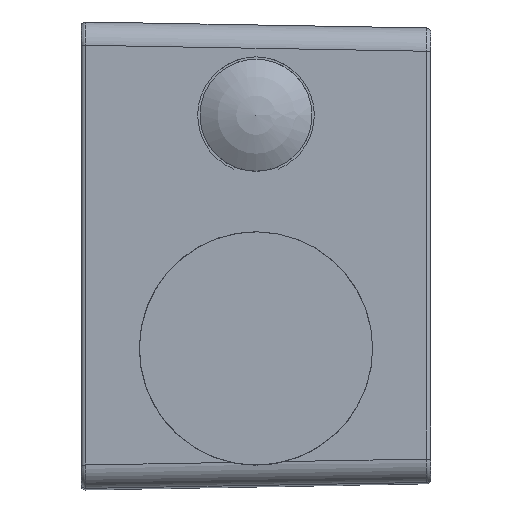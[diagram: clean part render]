
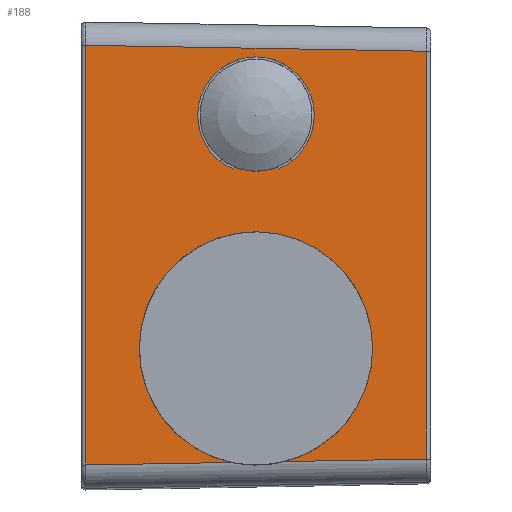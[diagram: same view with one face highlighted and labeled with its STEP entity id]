
A CAD part, top view. The second image highlights one B-rep face of the part: STEP entity #188.
In plain terms, the highlighted planar face has unit normal (0, 0, 1).
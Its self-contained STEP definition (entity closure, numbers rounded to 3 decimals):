
#188 = ADVANCED_FACE( '', ( #486, #487 ), #488, .T. );
#486 = FACE_OUTER_BOUND( '', #1591, .T. );
#487 = FACE_BOUND( '', #1592, .T. );
#488 = PLANE( '', #1593 );
#1591 = EDGE_LOOP( '', ( #2720, #2721, #2722, #2723, #2724, #2725 ) );
#1592 = EDGE_LOOP( '', ( #2726, #2727, #2728, #2729 ) );
#1593 = AXIS2_PLACEMENT_3D( '', #2730, #2731, #2732 );
#2720 = ORIENTED_EDGE( '', *, *, #3385, .T. );
#2721 = ORIENTED_EDGE( '', *, *, #3389, .T. );
#2722 = ORIENTED_EDGE( '', *, *, #3344, .T. );
#2723 = ORIENTED_EDGE( '', *, *, #3397, .T. );
#2724 = ORIENTED_EDGE( '', *, *, #3348, .T. );
#2725 = ORIENTED_EDGE( '', *, *, #3398, .T. );
#2726 = ORIENTED_EDGE( '', *, *, #3399, .T. );
#2727 = ORIENTED_EDGE( '', *, *, #3400, .T. );
#2728 = ORIENTED_EDGE( '', *, *, #3401, .T. );
#2729 = ORIENTED_EDGE( '', *, *, #3402, .T. );
#2730 = CARTESIAN_POINT( '', ( -15., 10., 9.5 ) );
#2731 = DIRECTION( '', ( 0., 0., 1. ) );
#2732 = DIRECTION( '', ( -1., 0., 0. ) );
#3344 = EDGE_CURVE( '', #3951, #3952, #3953, .T. );
#3348 = EDGE_CURVE( '', #3960, #3958, #3961, .T. );
#3385 = EDGE_CURVE( '', #4016, #4014, #4017, .F. );
#3389 = EDGE_CURVE( '', #4014, #3951, #4021, .T. );
#3397 = EDGE_CURVE( '', #3952, #3960, #4031, .T. );
#3398 = EDGE_CURVE( '', #3958, #4016, #4032, .F. );
#3399 = EDGE_CURVE( '', #4033, #4034, #4035, .T. );
#3400 = EDGE_CURVE( '', #4034, #4036, #4037, .F. );
#3401 = EDGE_CURVE( '', #4036, #4038, #4039, .T. );
#3402 = EDGE_CURVE( '', #4038, #4033, #4040, .T. );
#3951 = VERTEX_POINT( '', #4805 );
#3952 = VERTEX_POINT( '', #4806 );
#3953 = LINE( '', #4807, #4808 );
#3958 = VERTEX_POINT( '', #4814 );
#3960 = VERTEX_POINT( '', #4816 );
#3961 = LINE( '', #4817, #4818 );
#4014 = VERTEX_POINT( '', #4891 );
#4016 = VERTEX_POINT( '', #4893 );
#4017 = LINE( '', #4894, #4895 );
#4021 = LINE( '', #4899, #4900 );
#4031 = CIRCLE( '', #4913, 5. );
#4032 = LINE( '', #4914, #4915 );
#4033 = VERTEX_POINT( '', #4916 );
#4034 = VERTEX_POINT( '', #4917 );
#4035 = LINE( '', #4918, #4919 );
#4036 = VERTEX_POINT( '', #4920 );
#4037 = CIRCLE( '', #4921, 2.4 );
#4038 = VERTEX_POINT( '', #4922 );
#4039 = LINE( '', #4923, #4924 );
#4040 = CIRCLE( '', #4925, 2.5 );
#4805 = CARTESIAN_POINT( '', ( -14.8, -8.996, 9.5 ) );
#4806 = CARTESIAN_POINT( '', ( -8.555, -8.887, 9.5 ) );
#4807 = CARTESIAN_POINT( '', ( -14.668, -8.994, 9.5 ) );
#4808 = VECTOR( '', #5495, 1000. );
#4814 = CARTESIAN_POINT( '', ( -0.2, -8.742, 9.5 ) );
#4816 = CARTESIAN_POINT( '', ( -6.275, -8.848, 9.5 ) );
#4817 = CARTESIAN_POINT( '', ( -14.668, -8.994, 9.5 ) );
#4818 = VECTOR( '', #5503, 1000. );
#4891 = CARTESIAN_POINT( '', ( -14.8, 8.996, 9.5 ) );
#4893 = CARTESIAN_POINT( '', ( -0.2, 8.742, 9.5 ) );
#4894 = CARTESIAN_POINT( '', ( -15.017, 9., 9.5 ) );
#4895 = VECTOR( '', #5583, 1000. );
#4899 = CARTESIAN_POINT( '', ( -14.8, 10., 9.5 ) );
#4900 = VECTOR( '', #5593, 1000. );
#4913 = AXIS2_PLACEMENT_3D( '', #5609, #5610, #5611 );
#4914 = CARTESIAN_POINT( '', ( -0.2, 8.738, 9.5 ) );
#4915 = VECTOR( '', #5612, 1000. );
#4916 = CARTESIAN_POINT( '', ( -6.544, 3.69, 9.5 ) );
#4917 = CARTESIAN_POINT( '', ( -6.583, 3.782, 9.5 ) );
#4918 = CARTESIAN_POINT( '', ( -6.544, 3.69, 9.5 ) );
#4919 = VECTOR( '', #5613, 1000. );
#4920 = CARTESIAN_POINT( '', ( -8.419, 3.783, 9.5 ) );
#4921 = AXIS2_PLACEMENT_3D( '', #5614, #5615, #5616 );
#4922 = CARTESIAN_POINT( '', ( -8.458, 3.69, 9.5 ) );
#4923 = CARTESIAN_POINT( '', ( -8.458, 3.69, 9.5 ) );
#4924 = VECTOR( '', #5617, 1000. );
#4925 = AXIS2_PLACEMENT_3D( '', #5618, #5619, #5620 );
#5495 = DIRECTION( '', ( 1., 0.017, 0. ) );
#5503 = DIRECTION( '', ( 1., 0.017, 0. ) );
#5583 = DIRECTION( '', ( 1., -0.017, 0. ) );
#5593 = DIRECTION( '', ( 0., -1., 0. ) );
#5609 = CARTESIAN_POINT( '', ( -7.5, -4., 9.5 ) );
#5610 = DIRECTION( '', ( 0., 0., -1. ) );
#5611 = DIRECTION( '', ( -1., 0., 0. ) );
#5612 = DIRECTION( '', ( 0., -1., 0. ) );
#5613 = DIRECTION( '', ( -0.383, 0.924, 0. ) );
#5614 = CARTESIAN_POINT( '', ( -7.5, 6., 9.5 ) );
#5615 = DIRECTION( '', ( 0., 0., 1. ) );
#5616 = DIRECTION( '', ( 0., -1., 0. ) );
#5617 = DIRECTION( '', ( -0.383, -0.924, 0. ) );
#5618 = CARTESIAN_POINT( '', ( -7.501, 6., 9.5 ) );
#5619 = DIRECTION( '', ( 0., 0., -1. ) );
#5620 = DIRECTION( '', ( 0., -1., 0. ) );
